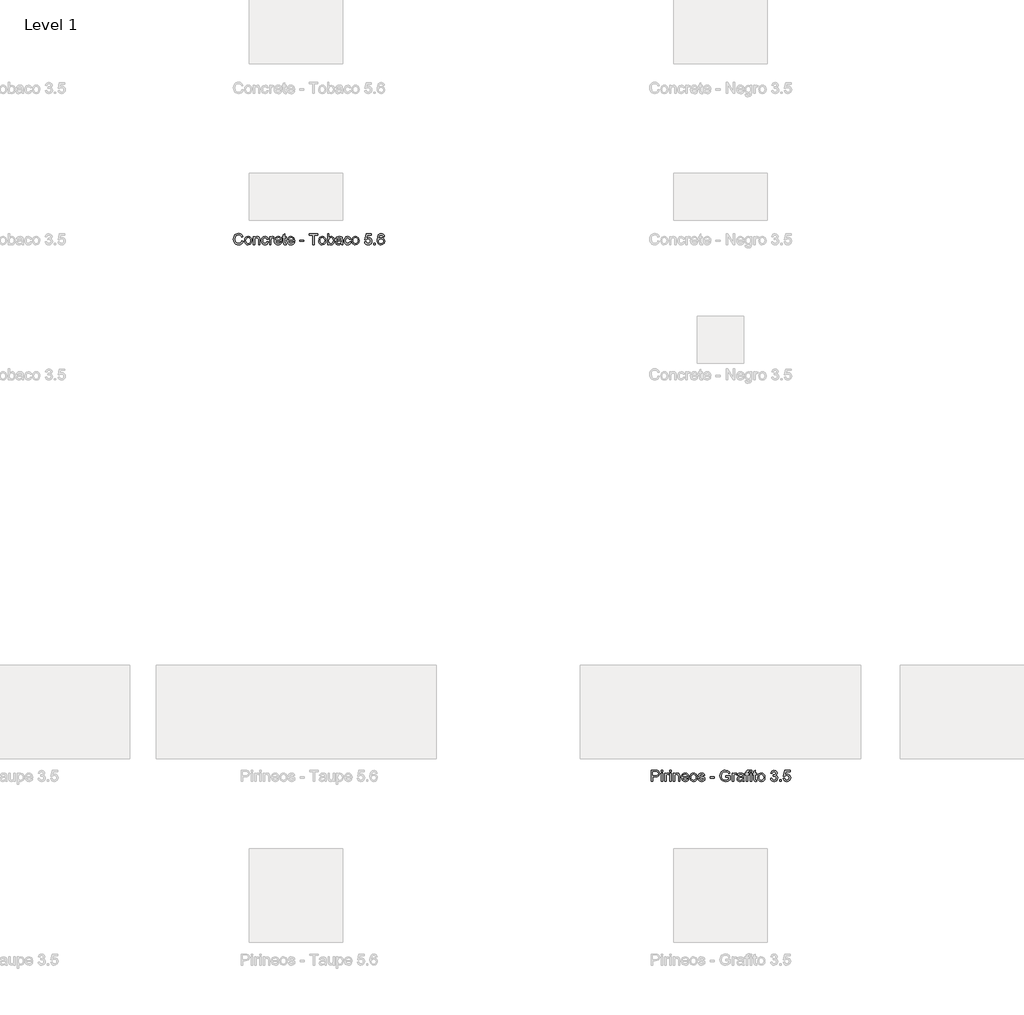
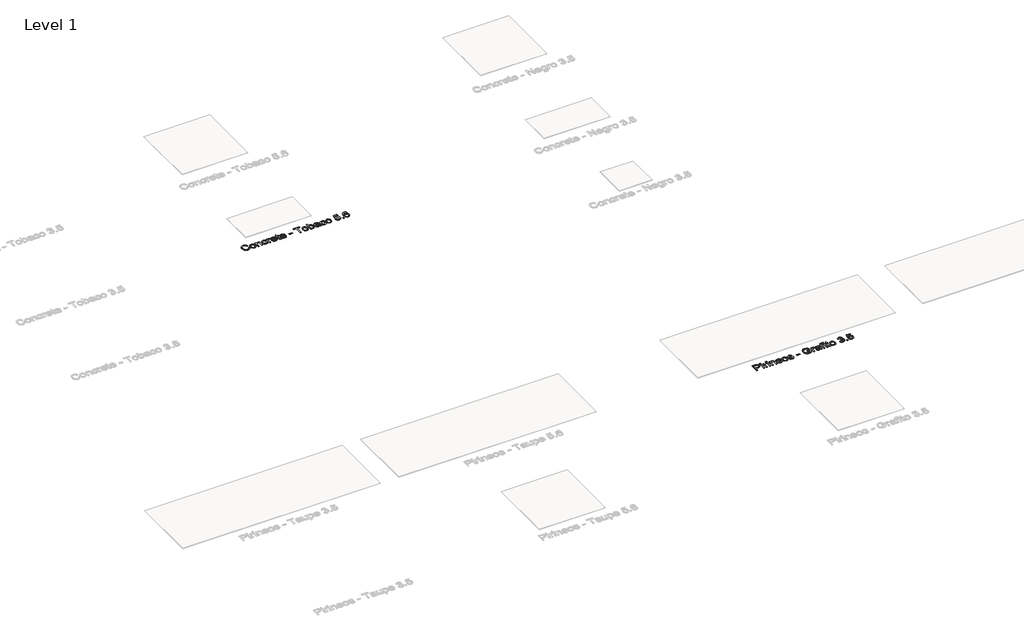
# One storey, part 50 of 80: 2 proxies.
"""IFC4 building model written with IfcOpenShell, lengths in millimetres."""

from ifc_helpers import new_model, si_unit, origin, origin_with_axes, place, context, project, spatial, polyline, outline, extrude, element, save

model = new_model("IFC4")

# Units and contexts
model_context = context("Model", 3, world=origin())
ifc_project = project(units=[si_unit("LENGTHUNIT", "METRE", prefix="MILLI")], contexts=[model_context])

# Site, building, storey
site = spatial("IfcSite", under=ifc_project)
building = spatial("IfcBuilding", under=site)
storey = spatial("IfcBuildingStorey", under=building, Name="Level 1", Elevation=0.0)

# Proxies
placement = place(None, origin())
element("IfcBuildingElementProxy", 1, Name="24\" Arial", ObjectType="24\" Arial", at=placement, inside=storey, context=model_context, shape_type="SweptSolid", body=[
    extrude(outline(polyline([(-7707.9991848, 7132.3794502), (-7693.2299541, 7128.5717579), (-7700.0448579, 7111.3614213), (-7710.7395694, 7098.788104), (-7724.7876464, 7091.0969982), (-7741.6626464, 7088.5332963), (-7758.793656, 7090.4732002), (-7772.3982233, 7096.2929117), (-7782.8261079, 7105.7905079), (-7790.4270694, 7118.7640655), (-7795.0676944, 7134.0164694), (-7796.6145694, 7150.350604), (-7794.8657714, 7167.5789694), (-7789.6193771, 7182.4563732), (-7781.1494252, 7194.5104598), (-7769.7299541, 7203.2688732), (-7756.1866848, 7208.6018059), (-7741.3453387, 7210.3794502), (-7725.1518291, 7208.0789694), (-7711.7636079, 7201.1775271), (-7701.5989444, 7190.100604), (-7695.0761079, 7175.2736809), (-7709.8453387, 7171.7544502), (-7714.965531, 7182.5248829), (-7721.9607233, 7189.913104), (-7730.9174541, 7194.1859405), (-7741.9222617, 7195.6102194), (-7754.6073579, 7194.0308925), (-7765.028031, 7189.2929117), (-7772.9354829, 7181.8938732), (-7778.0809156, 7172.3313732), (-7781.8453387, 7150.3794502), (-7777.3886079, 7124.9371425), (-7771.6914925, 7115.4359405), (-7763.5136079, 7108.6823348), (-7743.1338002, 7103.3025271), (-7730.8056752, 7105.1342579), (-7720.5328387, 7110.6294502), (-7712.7768291, 7119.7304117), (-7707.9991848, 7132.3794502)])), origin_with_axes(), (0.0, 0.0, 1.0), 2.0),
    extrude(outline(polyline([(-7678.4607233, 7133.7640655), (-7675.2660117, 7154.6847386), (-7665.6818771, 7169.3890655), (-7653.840531, 7176.5933925), (-7639.6626464, 7178.9948348), (-7624.1470214, 7176.0705559), (-7611.7539925, 7167.2977194), (-7603.6301944, 7153.3686329), (-7600.9222617, 7134.975604), (-7605.7107233, 7108.6967579), (-7619.6578387, 7093.8265655), (-7639.6626464, 7088.5332963), (-7655.3657714, 7091.4467579), (-7667.7443771, 7100.1871425), (-7675.7816367, 7114.4082963), (-7678.4607233, 7133.7640655)]), holes=[polyline([(-7663.6914925, 7133.7929117), (-7661.9823579, 7120.4263252), (-7656.8549541, 7110.9034886), (-7649.1386079, 7105.2027675), (-7639.6626464, 7103.3025271), (-7630.2299541, 7105.2135848), (-7622.528031, 7110.9467579), (-7617.4006271, 7120.5957963), (-7615.6914925, 7134.2544502), (-7617.4114444, 7147.2316136), (-7622.5713002, 7156.6246425), (-7630.2840406, 7162.3253636), (-7639.6626464, 7164.225604), (-7649.1386079, 7162.3325752), (-7656.8549541, 7156.6534886), (-7661.9823579, 7147.1522867), (-7663.6914925, 7133.7929117)])]), origin_with_axes(), (0.0, 0.0, 1.0), 2.0),
    extrude(outline(polyline([(-7584.3068771, 7090.3794502), (-7584.3068771, 7177.1486809), (-7569.5376464, 7177.1486809), (-7569.5376464, 7165.0332963), (-7558.2443771, 7175.5044502), (-7542.8261079, 7178.9948348), (-7528.8789925, 7176.1823348), (-7519.3597617, 7168.7977194), (-7514.9318771, 7157.9371425), (-7514.153031, 7143.6582963), (-7514.153031, 7090.3794502), (-7528.9222617, 7090.3794502), (-7528.9222617, 7141.6679117), (-7530.6241848, 7154.7352194), (-7536.6386079, 7161.6438732), (-7546.778031, 7164.225604), (-7562.8020694, 7158.4275271), (-7567.8537521, 7150.0260848), (-7569.5376464, 7136.4179117), (-7569.5376464, 7090.3794502), (-7584.3068771, 7090.3794502)])), origin_with_axes(), (0.0, 0.0, 1.0), 2.0),
    extrude(outline(polyline([(-7438.4607233, 7121.7640655), (-7423.6914925, 7119.9179117), (-7427.809281, 7106.7820944), (-7435.5472617, 7096.8554117), (-7446.1770694, 7090.6138252), (-7458.9703387, 7088.5332963), (-7474.6806752, 7091.4359405), (-7486.965531, 7100.1438732), (-7494.8946175, 7114.2748829), (-7497.5376464, 7133.4467579), (-7493.0232233, 7157.9804117), (-7487.3261079, 7167.178729), (-7479.2636079, 7173.7448348), (-7459.1722617, 7178.9948348), (-7446.6926944, 7177.1919502), (-7436.715531, 7171.7832963), (-7429.5580791, 7163.0573348), (-7425.5376464, 7151.3025271), (-7440.3068771, 7149.4563732), (-7447.1578387, 7160.5188732), (-7459.0568771, 7164.225604), (-7468.6013483, 7162.4010848), (-7476.1770694, 7156.9275271), (-7481.1205791, 7147.5092579), (-7482.7684156, 7133.850604), (-7481.1566367, 7120.0080559), (-7476.3213002, 7110.5573348), (-7468.8825983, 7105.116229), (-7459.4607233, 7103.3025271), (-7445.5424541, 7107.8313732), (-7438.4607233, 7121.7640655)])), origin_with_axes(), (0.0, 0.0, 1.0), 2.0),
    extrude(outline(polyline([(-7410.7684156, 7090.3794502), (-7410.7684156, 7177.1486809), (-7397.8453387, 7177.1486809), (-7397.8453387, 7164.3121425), (-7388.6722617, 7176.1390655), (-7379.4414925, 7178.9948348), (-7364.6145694, 7174.4371425), (-7369.5472617, 7161.1967579), (-7379.9318771, 7164.225604), (-7388.2828387, 7161.3121425), (-7393.6049541, 7153.2352194), (-7395.9991848, 7135.9852194), (-7395.9991848, 7090.3794502), (-7410.7684156, 7090.3794502)])), origin_with_axes(), (0.0, 0.0, 1.0), 2.0),
    extrude(outline(polyline([(-7294.6338002, 7116.225604), (-7280.153031, 7114.3794502), (-7285.3705791, 7103.4683925), (-7293.6963002, 7095.3121425), (-7304.9426944, 7090.2280079), (-7318.9222617, 7088.5332963), (-7336.2515887, 7091.4575752), (-7349.5857233, 7100.2304117), (-7358.0881271, 7114.2820944), (-7360.9222617, 7133.0429117), (-7358.059281, 7152.4347386), (-7349.4703387, 7166.9371425), (-7336.3164925, 7175.9804117), (-7319.7588002, 7178.9948348), (-7303.7167329, 7175.9876232), (-7290.8982233, 7166.9659886), (-7282.4931752, 7152.4924309), (-7279.6914925, 7133.1294502), (-7279.778031, 7129.1486809), (-7346.153031, 7129.1486809), (-7343.5965406, 7118.0933925), (-7337.6578387, 7109.9659886), (-7329.0869252, 7104.9683925), (-7318.6338002, 7103.3025271), (-7304.153031, 7106.3890655), (-7294.6338002, 7116.225604)]), holes=[polyline([(-7346.153031, 7143.9179117), (-7294.4607233, 7143.9179117), (-7300.3741848, 7157.3025271), (-7308.9847617, 7162.4948348), (-7319.8164925, 7164.225604), (-7338.0039925, 7158.7015655), (-7343.7263483, 7152.2436329), (-7346.153031, 7143.9179117)])]), origin_with_axes(), (0.0, 0.0, 1.0), 2.0),
    extrude(outline(polyline([(-7233.5376464, 7102.6967579), (-7231.6914925, 7089.9467579), (-7242.7395694, 7088.5332963), (-7255.1145694, 7090.9852194), (-7261.2876464, 7097.4179117), (-7263.0761079, 7114.1775271), (-7263.0761079, 7162.3794502), (-7274.153031, 7162.3794502), (-7274.153031, 7177.1486809), (-7263.0761079, 7177.1486809), (-7263.0761079, 7198.2352194), (-7248.3068771, 7206.9179117), (-7248.3068771, 7177.1486809), (-7233.5376464, 7177.1486809), (-7233.5376464, 7162.3794502), (-7248.3068771, 7162.3794502), (-7248.3068771, 7114.6102194), (-7247.528031, 7106.9948348), (-7245.0039925, 7104.2977194), (-7239.9703387, 7103.3025271), (-7233.5376464, 7102.6967579)])), origin_with_axes(), (0.0, 0.0, 1.0), 2.0),
    extrude(outline(polyline([(-7158.0184156, 7116.225604), (-7143.5376464, 7114.3794502), (-7148.7551944, 7103.4683925), (-7157.0809156, 7095.3121425), (-7168.3273098, 7090.2280079), (-7182.3068771, 7088.5332963), (-7199.6362041, 7091.4575752), (-7212.9703387, 7100.2304117), (-7221.4727425, 7114.2820944), (-7224.3068771, 7133.0429117), (-7221.4438964, 7152.4347386), (-7212.8549541, 7166.9371425), (-7199.7011079, 7175.9804117), (-7183.1434156, 7178.9948348), (-7167.1013483, 7175.9876232), (-7154.2828387, 7166.9659886), (-7145.8777906, 7152.4924309), (-7143.0761079, 7133.1294502), (-7143.1626464, 7129.1486809), (-7209.5376464, 7129.1486809), (-7206.981156, 7118.0933925), (-7201.0424541, 7109.9659886), (-7192.4715406, 7104.9683925), (-7182.0184156, 7103.3025271), (-7167.5376464, 7106.3890655), (-7158.0184156, 7116.225604)]), holes=[polyline([(-7209.5376464, 7143.9179117), (-7157.8453387, 7143.9179117), (-7163.7588002, 7157.3025271), (-7172.3693771, 7162.4948348), (-7183.2011079, 7164.225604), (-7201.3886079, 7158.7015655), (-7207.1109637, 7152.2436329), (-7209.5376464, 7143.9179117)])]), origin_with_axes(), (0.0, 0.0, 1.0), 2.0),
    extrude(outline(polyline([(-7089.5376464, 7125.4563732), (-7089.5376464, 7140.225604), (-7043.3838002, 7140.225604), (-7043.3838002, 7125.4563732), (-7089.5376464, 7125.4563732)])), origin_with_axes(), (0.0, 0.0, 1.0), 2.0),
    extrude(outline(polyline([(-6949.2299541, 7090.3794502), (-6949.2299541, 7193.7640655), (-6987.9991848, 7193.7640655), (-6987.9991848, 7208.5332963), (-6895.6914925, 7208.5332963), (-6895.6914925, 7193.7640655), (-6934.4607233, 7193.7640655), (-6934.4607233, 7090.3794502), (-6949.2299541, 7090.3794502)])), origin_with_axes(), (0.0, 0.0, 1.0), 2.0),
    extrude(outline(polyline([(-6884.6145694, 7133.7640655), (-6881.4198579, 7154.6847386), (-6871.8357233, 7169.3890655), (-6859.9943771, 7176.5933925), (-6845.8164925, 7178.9948348), (-6830.3008675, 7176.0705559), (-6817.9078387, 7167.2977194), (-6809.7840406, 7153.3686329), (-6807.0761079, 7134.975604), (-6811.8645694, 7108.6967579), (-6825.8116848, 7093.8265655), (-6845.8164925, 7088.5332963), (-6861.5196175, 7091.4467579), (-6873.8982233, 7100.1871425), (-6881.9354829, 7114.4082963), (-6884.6145694, 7133.7640655)]), holes=[polyline([(-6869.8453387, 7133.7929117), (-6868.1362041, 7120.4263252), (-6863.0088002, 7110.9034886), (-6855.2924541, 7105.2027675), (-6845.8164925, 7103.3025271), (-6836.3838002, 7105.2135848), (-6828.6818771, 7110.9467579), (-6823.5544733, 7120.5957963), (-6821.8453387, 7134.2544502), (-6823.5652906, 7147.2316136), (-6828.7251464, 7156.6246425), (-6836.4378867, 7162.3253636), (-6845.8164925, 7164.225604), (-6855.2924541, 7162.3325752), (-6863.0088002, 7156.6534886), (-6868.1362041, 7147.1522867), (-6869.8453387, 7133.7929117)])]), origin_with_axes(), (0.0, 0.0, 1.0), 2.0),
    extrude(outline(polyline([(-6775.6914925, 7090.3794502), (-6790.4607233, 7090.3794502), (-6790.4607233, 7208.5332963), (-6775.6914925, 7208.5332963), (-6775.6914925, 7164.7159886), (-6765.3501464, 7175.4251232), (-6752.4991848, 7178.9948348), (-6737.7011079, 7175.7784886), (-6726.2203387, 7166.7352194), (-6719.1674541, 7152.6727194), (-6716.6145694, 7135.0621425), (-6719.2575983, 7115.3457963), (-6727.1866848, 7100.6775271), (-6738.8225021, 7091.569354), (-6752.5857233, 7088.5332963), (-6765.7179348, 7092.4491617), (-6775.6914925, 7104.1967579), (-6775.6914925, 7090.3794502)]), holes=[polyline([(-6775.6914925, 7134.3698348), (-6771.653031, 7113.7159886), (-6763.9150502, 7105.9058925), (-6753.8549541, 7103.3025271), (-6745.3309156, 7105.2207963), (-6738.0472617, 7110.975604), (-6733.0496656, 7120.5308925), (-6731.3838002, 7133.850604), (-6732.981156, 7147.3650271), (-6737.7732233, 7156.8121425), (-6744.8297137, 7162.3722386), (-6753.2203387, 7164.225604), (-6761.7443771, 7162.3073348), (-6769.028031, 7156.5525271), (-6774.0256271, 7147.1703155), (-6775.6914925, 7134.3698348)])]), origin_with_axes(), (0.0, 0.0, 1.0), 2.0),
    extrude(outline(polyline([(-6644.6145694, 7101.4563732), (-6658.9366848, 7091.4467579), (-6674.7588002, 7088.5332963), (-6687.1013483, 7090.2857002), (-6696.2059156, 7095.5429117), (-6701.8200983, 7103.5260848), (-6703.6914925, 7113.4563732), (-6700.8645694, 7125.1390655), (-6693.4366848, 7133.6198348), (-6683.0953387, 7138.4659886), (-6670.3164925, 7140.6871425), (-6644.7011079, 7145.7640655), (-6644.6145694, 7149.0525271), (-6648.6818771, 7159.9563732), (-6665.0088002, 7164.225604), (-6679.9511079, 7161.3842579), (-6687.0761079, 7151.3025271), (-6701.8453387, 7153.1486809), (-6695.4559156, 7167.5717579), (-6682.590531, 7176.0236809), (-6663.1049541, 7178.9948348), (-6645.2059156, 7176.3698348), (-6635.0953387, 7169.7784886), (-6630.5664925, 7159.7544502), (-6629.8453387, 7146.8313732), (-6629.8453387, 7128.4563732), (-6629.0953387, 7102.7977194), (-6626.153031, 7090.3794502), (-6640.9222617, 7090.3794502), (-6644.6145694, 7101.4563732)]), holes=[polyline([(-6644.6145694, 7130.9948348), (-6668.4414925, 7126.4659886), (-6681.1482233, 7124.0717579), (-6686.903031, 7120.1775271), (-6688.9222617, 7114.4948348), (-6684.5232233, 7106.5044502), (-6671.6145694, 7103.3025271), (-6656.6722617, 7106.8361809), (-6647.0376464, 7115.3890655), (-6644.7011079, 7126.8121425), (-6644.6145694, 7130.9948348)])]), origin_with_axes(), (0.0, 0.0, 1.0), 2.0),
    extrude(outline(polyline([(-6554.153031, 7121.7640655), (-6539.3838002, 7119.9179117), (-6543.5015887, 7106.7820944), (-6551.2395694, 7096.8554117), (-6561.8693771, 7090.6138252), (-6574.6626464, 7088.5332963), (-6590.3729829, 7091.4359405), (-6602.6578387, 7100.1438732), (-6610.5869252, 7114.2748829), (-6613.2299541, 7133.4467579), (-6608.715531, 7157.9804117), (-6603.0184156, 7167.178729), (-6594.9559156, 7173.7448348), (-6574.8645694, 7178.9948348), (-6562.3850021, 7177.1919502), (-6552.4078387, 7171.7832963), (-6545.2503867, 7163.0573348), (-6541.2299541, 7151.3025271), (-6555.9991848, 7149.4563732), (-6562.8501464, 7160.5188732), (-6574.7491848, 7164.225604), (-6584.293656, 7162.4010848), (-6591.8693771, 7156.9275271), (-6596.8128867, 7147.5092579), (-6598.4607233, 7133.850604), (-6596.8489444, 7120.0080559), (-6592.0136079, 7110.5573348), (-6584.574906, 7105.116229), (-6575.153031, 7103.3025271), (-6561.2347617, 7107.8313732), (-6554.153031, 7121.7640655)])), origin_with_axes(), (0.0, 0.0, 1.0), 2.0),
    extrude(outline(polyline([(-6530.153031, 7133.7640655), (-6526.9583194, 7154.6847386), (-6517.3741848, 7169.3890655), (-6505.5328387, 7176.5933925), (-6491.3549541, 7178.9948348), (-6475.8393291, 7176.0705559), (-6463.4463002, 7167.2977194), (-6455.3225021, 7153.3686329), (-6452.6145694, 7134.975604), (-6457.403031, 7108.6967579), (-6471.3501464, 7093.8265655), (-6491.3549541, 7088.5332963), (-6507.0580791, 7091.4467579), (-6519.4366848, 7100.1871425), (-6527.4739444, 7114.4082963), (-6530.153031, 7133.7640655)]), holes=[polyline([(-6515.3838002, 7133.7929117), (-6513.6746656, 7120.4263252), (-6508.5472617, 7110.9034886), (-6500.8309156, 7105.2027675), (-6491.3549541, 7103.3025271), (-6481.9222617, 7105.2135848), (-6474.2203387, 7110.9467579), (-6469.0929348, 7120.5957963), (-6467.3838002, 7134.2544502), (-6469.1037521, 7147.2316136), (-6474.2636079, 7156.6246425), (-6481.9763483, 7162.3253636), (-6491.3549541, 7164.225604), (-6500.8309156, 7162.3325752), (-6508.5472617, 7156.6534886), (-6513.6746656, 7147.1522867), (-6515.3838002, 7133.7929117)])]), origin_with_axes(), (0.0, 0.0, 1.0), 2.0),
    extrude(outline(polyline([(-6393.5376464, 7121.7640655), (-6378.7684156, 7123.6102194), (-6371.3261079, 7108.3938732), (-6355.8934156, 7103.3025271), (-6345.3068771, 7105.0729598), (-6337.3741848, 7110.3842579), (-6332.4198579, 7118.6234405), (-6330.7684156, 7129.1775271), (-6332.3152906, 7139.1150271), (-6336.9559156, 7146.7159886), (-6344.7263483, 7151.5405079), (-6355.6626464, 7153.1486809), (-6368.6289925, 7150.5813732), (-6376.9222617, 7143.9179117), (-6391.6914925, 7145.7640655), (-6378.7684156, 7206.6871425), (-6321.5376464, 7206.6871425), (-6321.5376464, 7191.9179117), (-6366.8261079, 7191.9179117), (-6373.1434156, 7159.3794502), (-6362.5929348, 7165.7832963), (-6351.5376464, 7167.9179117), (-6337.7383675, 7165.2712771), (-6326.2828387, 7157.3313732), (-6318.5700983, 7145.2304117), (-6315.9991848, 7130.100604), (-6318.3140887, 7115.3313732), (-6325.2588002, 7102.6967579), (-6338.5568771, 7092.0741617), (-6355.9511079, 7088.5332963), (-6370.4571175, 7090.8085367), (-6382.0136079, 7097.6342579), (-6389.9354829, 7108.2171905), (-6393.5376464, 7121.7640655)])), origin_with_axes(), (0.0, 0.0, 1.0), 2.0),
    extrude(outline(polyline([(-6295.6914925, 7090.3794502), (-6295.6914925, 7105.1486809), (-6280.9222617, 7105.1486809), (-6280.9222617, 7090.3794502), (-6295.6914925, 7090.3794502)])), origin_with_axes(), (0.0, 0.0, 1.0), 2.0),
    extrude(outline(polyline([(-6181.2299541, 7177.1486809), (-6195.9991848, 7175.3025271), (-6201.5953387, 7187.6198348), (-6208.2948579, 7192.2280079), (-6216.3934156, 7193.7640655), (-6229.7203387, 7190.1871425), (-6239.8020694, 7176.7592579), (-6243.9991848, 7150.4371425), (-6230.9751464, 7162.2207963), (-6214.8357233, 7166.0717579), (-6201.1914925, 7163.4395463), (-6189.7395694, 7155.5429117), (-6181.9727425, 7143.4780079), (-6179.3838002, 7128.3409886), (-6184.2588002, 7107.9611809), (-6197.6722617, 7093.538104), (-6217.028031, 7088.5332963), (-6233.7840406, 7091.850604), (-6247.1289925, 7101.8025271), (-6255.8585598, 7119.3698348), (-6258.7684156, 7145.5332963), (-6255.5376464, 7174.9491617), (-6245.8453387, 7195.0621425), (-6232.6121656, 7205.1655079), (-6215.4703387, 7208.5332963), (-6202.5112041, 7206.4491617), (-6192.1338002, 7200.1967579), (-6184.8645694, 7190.2664694), (-6181.2299541, 7177.1486809)]), holes=[polyline([(-6243.9991848, 7128.5717579), (-6240.5809156, 7115.7784886), (-6231.4943771, 7106.4900271), (-6218.1818771, 7103.3025271), (-6208.4354829, 7104.9539694), (-6200.7732233, 7109.9082963), (-6195.8080791, 7117.6967579), (-6194.153031, 7127.850604), (-6195.7864444, 7137.5969982), (-6200.6866848, 7145.0284886), (-6208.4787521, 7149.7340175), (-6218.7876464, 7151.3025271), (-6228.5196175, 7149.7340175), (-6236.6578387, 7145.0284886), (-6242.1638483, 7137.7772867), (-6243.9991848, 7128.5717579)])]), origin_with_axes(), (0.0, 0.0, 1.0), 2.0),
])
element("IfcBuildingElementProxy", 2, Name="24\" Arial", ObjectType="24\" Arial", at=placement, inside=storey, context=model_context, shape_type="SweptSolid", body=[
    extrude(outline(polyline([(-3326.7684156, 1348.728562), (-3326.7684156, 1466.8824082), (-3282.9799541, 1466.8824082), (-3265.3261079, 1465.7574082), (-3250.9751464, 1460.2333697), (-3241.6722617, 1448.8102928), (-3238.153031, 1432.6997159), (-3240.5292329, 1418.7742351), (-3247.6578387, 1407.1708697), (-3260.9883675, 1399.339139), (-3281.9703387, 1396.728562), (-3311.9991848, 1396.728562), (-3311.9991848, 1348.728562), (-3326.7684156, 1348.728562)]), holes=[polyline([(-3311.9991848, 1411.4977928), (-3281.1049541, 1411.4977928), (-3268.0088002, 1412.853562), (-3259.3549541, 1416.9208697), (-3254.5304348, 1423.447312), (-3252.9222617, 1432.1804851), (-3256.715531, 1444.4112544), (-3266.6818771, 1451.103562), (-3281.4511079, 1452.1131774), (-3311.9991848, 1452.1131774), (-3311.9991848, 1411.4977928)])]), origin_with_axes(), (0.0, 0.0, 1.0), 2.0),
    extrude(outline(polyline([(-3219.6914925, 1348.728562), (-3219.6914925, 1435.4977928), (-3204.9222617, 1435.4977928), (-3204.9222617, 1348.728562), (-3219.6914925, 1348.728562)])), origin_with_axes(), (0.0, 0.0, 1.0), 2.0),
    extrude(outline(polyline([(-3219.6914925, 1452.1131774), (-3219.6914925, 1466.8824082), (-3204.9222617, 1466.8824082), (-3204.9222617, 1452.1131774), (-3219.6914925, 1452.1131774)])), origin_with_axes(), (0.0, 0.0, 1.0), 2.0),
    extrude(outline(polyline([(-3182.7684156, 1348.728562), (-3182.7684156, 1435.4977928), (-3169.8453387, 1435.4977928), (-3169.8453387, 1422.6612544), (-3160.6722617, 1434.4881774), (-3151.4414925, 1437.3439467), (-3136.6145694, 1432.7862544), (-3141.5472617, 1419.5458697), (-3151.9318771, 1422.5747159), (-3160.2828387, 1419.6612544), (-3165.6049541, 1411.5843313), (-3167.9991848, 1394.3343313), (-3167.9991848, 1348.728562), (-3182.7684156, 1348.728562)])), origin_with_axes(), (0.0, 0.0, 1.0), 2.0),
    extrude(outline(polyline([(-3127.3838002, 1348.728562), (-3127.3838002, 1435.4977928), (-3112.6145694, 1435.4977928), (-3112.6145694, 1348.728562), (-3127.3838002, 1348.728562)])), origin_with_axes(), (0.0, 0.0, 1.0), 2.0),
    extrude(outline(polyline([(-3127.3838002, 1452.1131774), (-3127.3838002, 1466.8824082), (-3112.6145694, 1466.8824082), (-3112.6145694, 1452.1131774), (-3127.3838002, 1452.1131774)])), origin_with_axes(), (0.0, 0.0, 1.0), 2.0),
    extrude(outline(polyline([(-3090.4607233, 1348.728562), (-3090.4607233, 1435.4977928), (-3075.6914925, 1435.4977928), (-3075.6914925, 1423.3824082), (-3064.3982233, 1433.853562), (-3048.9799541, 1437.3439467), (-3035.0328387, 1434.5314467), (-3025.5136079, 1427.1468313), (-3021.0857233, 1416.2862544), (-3020.3068771, 1402.0074082), (-3020.3068771, 1348.728562), (-3035.0761079, 1348.728562), (-3035.0761079, 1400.0170236), (-3036.778031, 1413.0843313), (-3042.7924541, 1419.9929851), (-3052.9318771, 1422.5747159), (-3068.9559156, 1416.776639), (-3074.0075983, 1408.3751967), (-3075.6914925, 1394.7670236), (-3075.6914925, 1348.728562), (-3090.4607233, 1348.728562)])), origin_with_axes(), (0.0, 0.0, 1.0), 2.0),
    extrude(outline(polyline([(-2939.2491848, 1374.5747159), (-2924.7684156, 1372.728562), (-2929.9859637, 1361.8175044), (-2938.3116848, 1353.6612544), (-2949.5580791, 1348.5771197), (-2963.5376464, 1346.8824082), (-2980.8669733, 1349.806687), (-2994.2011079, 1358.5795236), (-3002.7035117, 1372.6312063), (-3005.5376464, 1391.3920236), (-3002.6746656, 1410.7838505), (-2994.0857233, 1425.2862544), (-2980.9318771, 1434.3295236), (-2964.3741848, 1437.3439467), (-2948.3321175, 1434.3367351), (-2935.5136079, 1425.3151005), (-2927.1085598, 1410.8415428), (-2924.3068771, 1391.478562), (-2924.3934156, 1387.4977928), (-2990.7684156, 1387.4977928), (-2988.2119252, 1376.4425044), (-2982.2732233, 1368.3151005), (-2973.7023098, 1363.3175044), (-2963.2491848, 1361.651639), (-2948.7684156, 1364.7381774), (-2939.2491848, 1374.5747159)]), holes=[polyline([(-2990.7684156, 1402.2670236), (-2939.0761079, 1402.2670236), (-2944.9895694, 1415.651639), (-2953.6001464, 1420.8439467), (-2964.4318771, 1422.5747159), (-2982.6193771, 1417.0506774), (-2988.3417329, 1410.5927447), (-2990.7684156, 1402.2670236)])]), origin_with_axes(), (0.0, 0.0, 1.0), 2.0),
    extrude(outline(polyline([(-2913.2299541, 1392.1131774), (-2910.0352425, 1413.0338505), (-2900.4511079, 1427.7381774), (-2888.6097617, 1434.9425044), (-2874.4318771, 1437.3439467), (-2858.9162521, 1434.4196678), (-2846.5232233, 1425.6468313), (-2838.3994252, 1411.7177447), (-2835.6914925, 1393.3247159), (-2840.4799541, 1367.0458697), (-2854.4270694, 1352.1756774), (-2874.4318771, 1346.8824082), (-2890.1350021, 1349.7958697), (-2902.5136079, 1358.5362544), (-2910.5508675, 1372.7574082), (-2913.2299541, 1392.1131774)]), holes=[polyline([(-2898.4607233, 1392.1420236), (-2896.7515887, 1378.775437), (-2891.6241848, 1369.2526005), (-2883.9078387, 1363.5518794), (-2874.4318771, 1361.651639), (-2864.9991848, 1363.5626967), (-2857.2972617, 1369.2958697), (-2852.1698579, 1378.9449082), (-2850.4607233, 1392.603562), (-2852.1806752, 1405.5807255), (-2857.340531, 1414.9737544), (-2865.0532714, 1420.6744755), (-2874.4318771, 1422.5747159), (-2883.9078387, 1420.681687), (-2891.6241848, 1415.0026005), (-2896.7515887, 1405.5013986), (-2898.4607233, 1392.1420236)])]), origin_with_axes(), (0.0, 0.0, 1.0), 2.0),
    extrude(outline(polyline([(-2824.6145694, 1374.5747159), (-2809.8453387, 1376.4208697), (-2803.0088002, 1365.4593313), (-2787.3453387, 1361.651639), (-2772.2876464, 1365.1420236), (-2767.3838002, 1373.3343313), (-2772.3164925, 1379.9689467), (-2787.5184156, 1384.1804851), (-2809.7588002, 1391.4064467), (-2819.465531, 1399.8439467), (-2822.7684156, 1411.7574082), (-2820.1145694, 1422.7622159), (-2812.8741848, 1431.1708697), (-2803.4847617, 1435.541062), (-2790.778031, 1437.3439467), (-2772.8068771, 1434.4449082), (-2761.3838002, 1426.5987544), (-2756.3068771, 1413.3439467), (-2771.0761079, 1411.4977928), (-2776.6289925, 1419.6468313), (-2789.6241848, 1422.5747159), (-2803.7588002, 1419.776639), (-2807.9991848, 1413.2574082), (-2806.2395694, 1408.9593313), (-2800.7299541, 1405.6997159), (-2788.0088002, 1402.5554851), (-2766.3309156, 1395.603562), (-2756.2636079, 1387.728562), (-2752.6145694, 1374.8920236), (-2756.8982233, 1360.7574082), (-2769.2588002, 1350.5026005), (-2787.5472617, 1346.8824082), (-2802.4390887, 1348.6276005), (-2813.3068771, 1353.8631774), (-2820.5616848, 1362.5314467), (-2824.6145694, 1374.5747159)])), origin_with_axes(), (0.0, 0.0, 1.0), 2.0),
    extrude(outline(polyline([(-2697.2299541, 1383.8054851), (-2697.2299541, 1398.5747159), (-2651.0761079, 1398.5747159), (-2651.0761079, 1383.8054851), (-2697.2299541, 1383.8054851)])), origin_with_axes(), (0.0, 0.0, 1.0), 2.0),
    extrude(outline(polyline([(-2531.0761079, 1394.8824082), (-2531.0761079, 1409.651639), (-2483.0761079, 1409.651639), (-2483.0761079, 1365.4881774), (-2506.7732233, 1351.5554851), (-2531.8261079, 1346.8824082), (-2548.3946175, 1348.7393794), (-2563.3693771, 1354.3102928), (-2575.809281, 1363.400437), (-2584.7732233, 1375.8151005), (-2590.1926944, 1390.7069274), (-2591.9991848, 1407.228562), (-2590.199906, 1423.869187), (-2584.8020694, 1439.3487544), (-2576.0292329, 1452.3331294), (-2564.1049541, 1461.4881774), (-2549.5809156, 1466.9184659), (-2533.0088002, 1468.728562), (-2509.903031, 1464.5314467), (-2493.7059156, 1452.8487544), (-2484.778031, 1433.3054851), (-2498.3934156, 1429.4689467), (-2505.1289925, 1443.1276005), (-2516.6386079, 1451.0026005), (-2533.2395694, 1453.9593313), (-2552.1482233, 1450.7718313), (-2565.0136079, 1442.4064467), (-2572.6145694, 1431.026639), (-2577.2299541, 1407.8343313), (-2575.8417329, 1393.7105332), (-2571.6770694, 1382.089139), (-2564.8621656, 1373.0530813), (-2555.5232233, 1366.6852928), (-2533.0088002, 1361.651639), (-2512.8020694, 1365.4449082), (-2497.8453387, 1373.5362544), (-2497.8453387, 1394.8824082), (-2531.0761079, 1394.8824082)])), origin_with_axes(), (0.0, 0.0, 1.0), 2.0),
    extrude(outline(polyline([(-2460.9222617, 1348.728562), (-2460.9222617, 1435.4977928), (-2447.9991848, 1435.4977928), (-2447.9991848, 1422.6612544), (-2438.8261079, 1434.4881774), (-2429.5953387, 1437.3439467), (-2414.7684156, 1432.7862544), (-2419.7011079, 1419.5458697), (-2430.0857233, 1422.5747159), (-2438.4366848, 1419.6612544), (-2443.7588002, 1411.5843313), (-2446.153031, 1394.3343313), (-2446.153031, 1348.728562), (-2460.9222617, 1348.728562)])), origin_with_axes(), (0.0, 0.0, 1.0), 2.0),
    extrude(outline(polyline([(-2350.153031, 1359.8054851), (-2364.4751464, 1349.7958697), (-2380.2972617, 1346.8824082), (-2392.6398098, 1348.634812), (-2401.7443771, 1353.8920236), (-2407.3585598, 1361.8751967), (-2409.2299541, 1371.8054851), (-2406.403031, 1383.4881774), (-2398.9751464, 1391.9689467), (-2388.6338002, 1396.8151005), (-2375.8549541, 1399.0362544), (-2350.2395694, 1404.1131774), (-2350.153031, 1407.401639), (-2354.2203387, 1418.3054851), (-2370.5472617, 1422.5747159), (-2385.4895694, 1419.7333697), (-2392.6145694, 1409.651639), (-2407.3838002, 1411.4977928), (-2400.9943771, 1425.9208697), (-2388.1289925, 1434.3727928), (-2368.6434156, 1437.3439467), (-2350.7443771, 1434.7189467), (-2340.6338002, 1428.1276005), (-2336.1049541, 1418.103562), (-2335.3838002, 1405.1804851), (-2335.3838002, 1386.8054851), (-2334.6338002, 1361.1468313), (-2331.6914925, 1348.728562), (-2346.4607233, 1348.728562), (-2350.153031, 1359.8054851)]), holes=[polyline([(-2350.153031, 1389.3439467), (-2373.9799541, 1384.8151005), (-2386.6866848, 1382.4208697), (-2392.4414925, 1378.526639), (-2394.4607233, 1372.8439467), (-2390.0616848, 1364.853562), (-2377.153031, 1361.651639), (-2362.2107233, 1365.1852928), (-2352.5761079, 1373.7381774), (-2350.2395694, 1385.1612544), (-2350.153031, 1389.3439467)])]), origin_with_axes(), (0.0, 0.0, 1.0), 2.0),
    extrude(outline(polyline([(-2311.3838002, 1348.728562), (-2311.3838002, 1420.728562), (-2324.3068771, 1420.728562), (-2324.3068771, 1435.4977928), (-2311.3838002, 1435.4977928), (-2311.3838002, 1444.2381774), (-2309.8261079, 1456.5554851), (-2302.2684156, 1465.353562), (-2287.3838002, 1468.728562), (-2273.9126464, 1467.1131774), (-2276.0761079, 1453.2670236), (-2284.5857233, 1453.9593313), (-2293.8886079, 1451.5074082), (-2296.6145694, 1442.3631774), (-2296.6145694, 1435.4977928), (-2279.9991848, 1435.4977928), (-2279.9991848, 1420.728562), (-2296.6145694, 1420.728562), (-2296.6145694, 1348.728562), (-2311.3838002, 1348.728562)])), origin_with_axes(), (0.0, 0.0, 1.0), 2.0),
    extrude(outline(polyline([(-2267.0761079, 1348.728562), (-2267.0761079, 1435.4977928), (-2252.3068771, 1435.4977928), (-2252.3068771, 1348.728562), (-2267.0761079, 1348.728562)])), origin_with_axes(), (0.0, 0.0, 1.0), 2.0),
    extrude(outline(polyline([(-2267.0761079, 1452.1131774), (-2267.0761079, 1466.8824082), (-2252.3068771, 1466.8824082), (-2252.3068771, 1452.1131774), (-2267.0761079, 1452.1131774)])), origin_with_axes(), (0.0, 0.0, 1.0), 2.0),
    extrude(outline(polyline([(-2198.7684156, 1361.0458697), (-2196.9222617, 1348.2958697), (-2207.9703387, 1346.8824082), (-2220.3453387, 1349.3343313), (-2226.5184156, 1355.7670236), (-2228.3068771, 1372.526639), (-2228.3068771, 1420.728562), (-2239.3838002, 1420.728562), (-2239.3838002, 1435.4977928), (-2228.3068771, 1435.4977928), (-2228.3068771, 1456.5843313), (-2213.5376464, 1465.2670236), (-2213.5376464, 1435.4977928), (-2198.7684156, 1435.4977928), (-2198.7684156, 1420.728562), (-2213.5376464, 1420.728562), (-2213.5376464, 1372.9593313), (-2212.7588002, 1365.3439467), (-2210.2347617, 1362.6468313), (-2205.2011079, 1361.651639), (-2198.7684156, 1361.0458697)])), origin_with_axes(), (0.0, 0.0, 1.0), 2.0),
    extrude(outline(polyline([(-2187.6914925, 1392.1131774), (-2184.496781, 1413.0338505), (-2174.9126464, 1427.7381774), (-2163.0713002, 1434.9425044), (-2148.8934156, 1437.3439467), (-2133.3777906, 1434.4196678), (-2120.9847617, 1425.6468313), (-2112.8609637, 1411.7177447), (-2110.153031, 1393.3247159), (-2114.9414925, 1367.0458697), (-2128.8886079, 1352.1756774), (-2148.8934156, 1346.8824082), (-2164.5965406, 1349.7958697), (-2176.9751464, 1358.5362544), (-2185.012406, 1372.7574082), (-2187.6914925, 1392.1131774)]), holes=[polyline([(-2172.9222617, 1392.1420236), (-2171.2131271, 1378.775437), (-2166.0857233, 1369.2526005), (-2158.3693771, 1363.5518794), (-2148.8934156, 1361.651639), (-2139.4607233, 1363.5626967), (-2131.7588002, 1369.2958697), (-2126.6313964, 1378.9449082), (-2124.9222617, 1392.603562), (-2126.6422137, 1405.5807255), (-2131.8020694, 1414.9737544), (-2139.5148098, 1420.6744755), (-2148.8934156, 1422.5747159), (-2158.3693771, 1420.681687), (-2166.0857233, 1415.0026005), (-2171.2131271, 1405.5013986), (-2172.9222617, 1392.1420236)])]), origin_with_axes(), (0.0, 0.0, 1.0), 2.0),
    extrude(outline(polyline([(-2051.0761079, 1380.1131774), (-2036.3068771, 1381.9593313), (-2028.1578387, 1366.4112544), (-2012.9126464, 1361.651639), (-2002.7876464, 1363.2886582), (-1994.9703387, 1368.1997159), (-1989.9727425, 1375.526639), (-1988.3068771, 1384.4112544), (-1989.9583194, 1392.8451486), (-1994.9126464, 1399.6852928), (-2002.4126464, 1404.2177447), (-2011.7011079, 1405.728562), (-2022.0568771, 1404.1131774), (-2020.4126464, 1418.8824082), (-2018.0472617, 1418.7093313), (-2001.2876464, 1422.9497159), (-1995.7059156, 1428.3295236), (-1993.8453387, 1435.9881774), (-1999.2395694, 1447.541062), (-2013.1434156, 1452.1131774), (-2027.2203387, 1447.4977928), (-2034.4607233, 1433.651639), (-2049.2299541, 1435.4977928), (-2044.8813964, 1448.759812), (-2037.1434156, 1458.6612544), (-2026.5568771, 1464.8271197), (-2013.6626464, 1466.8824082), (-1995.8501464, 1462.8295236), (-1983.3886079, 1451.7526005), (-1979.0761079, 1436.853562), (-1983.1722617, 1423.2381774), (-1995.2876464, 1413.4593313), (-1986.0424541, 1409.7237544), (-1979.1914925, 1403.3631774), (-1974.9511079, 1394.7237544), (-1973.5376464, 1384.151639), (-1976.3645694, 1369.7574082), (-1984.8453387, 1357.728562), (-1997.6458194, 1349.5939467), (-2013.4318771, 1346.8824082), (-2027.7107233, 1349.197312), (-2039.3357233, 1356.1420236), (-2047.4198579, 1366.7646197), (-2051.0761079, 1380.1131774)])), origin_with_axes(), (0.0, 0.0, 1.0), 2.0),
    extrude(outline(polyline([(-1953.2299541, 1348.728562), (-1953.2299541, 1363.4977928), (-1938.4607233, 1363.4977928), (-1938.4607233, 1348.728562), (-1953.2299541, 1348.728562)])), origin_with_axes(), (0.0, 0.0, 1.0), 2.0),
    extrude(outline(polyline([(-1914.4607233, 1380.1131774), (-1899.6914925, 1381.9593313), (-1892.2491848, 1366.7429851), (-1876.8164925, 1361.651639), (-1866.2299541, 1363.4220717), (-1858.2972617, 1368.7333697), (-1853.3429348, 1376.9725524), (-1851.6914925, 1387.526639), (-1853.2383675, 1397.464139), (-1857.8789925, 1405.0651005), (-1865.6494252, 1409.8896197), (-1876.5857233, 1411.4977928), (-1889.5520694, 1408.9304851), (-1897.8453387, 1402.2670236), (-1912.6145694, 1404.1131774), (-1899.6914925, 1465.0362544), (-1842.4607233, 1465.0362544), (-1842.4607233, 1450.2670236), (-1887.7491848, 1450.2670236), (-1894.0664925, 1417.728562), (-1883.5160117, 1424.1324082), (-1872.4607233, 1426.2670236), (-1858.6614444, 1423.620389), (-1847.2059156, 1415.6804851), (-1839.4931752, 1403.5795236), (-1836.9222617, 1388.4497159), (-1839.2371656, 1373.6804851), (-1846.1818771, 1361.0458697), (-1859.4799541, 1350.4232736), (-1876.8741848, 1346.8824082), (-1891.3801944, 1349.1576486), (-1902.9366848, 1355.9833697), (-1910.8585598, 1366.5663024), (-1914.4607233, 1380.1131774)])), origin_with_axes(), (0.0, 0.0, 1.0), 2.0),
])

save(model, "model.ifc")
